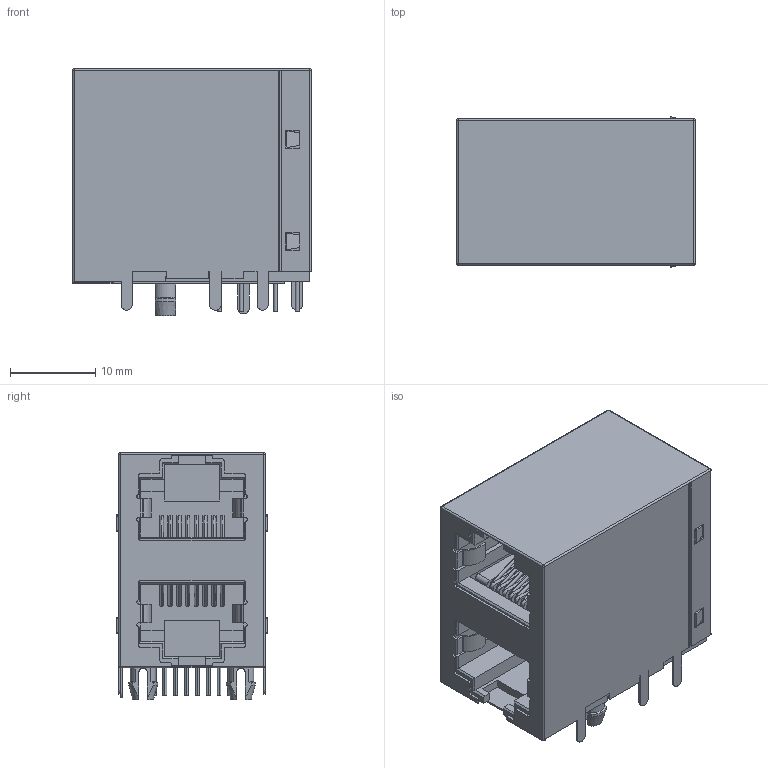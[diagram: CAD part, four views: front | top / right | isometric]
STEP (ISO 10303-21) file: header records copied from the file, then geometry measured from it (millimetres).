
FILE_DESCRIPTION((''),'2;1');
FILE_NAME('DGKYD59212188GWA1D0001','2022-11-07T15:45:10',('Administrator'),(''),'CREO PARAMETRIC BY PTC INC, 2019010','CREO PARAMETRIC BY PTC INC, 2019010','');
FILE_SCHEMA(('CONFIG_CONTROL_DESIGN'));
Length unit declared in the file: millimetre
Products named in the file (1): DGKYD59212188GWA1D0001
Bounding box: 28 x 17.68 x 29.01 mm (x, y, z)
Volume: 7090.8 mm3; surface area: 15420.3 mm2
Topology: 2 solids, 3 shells, 1498 faces, 4298 edges, 2743 vertices
Faces by surface type: plane 981, cylinder 398, torus 105, cone 8, sphere 6
Entity records: 49517 total; most frequent: CARTESIAN_POINT 10143, ORIENTED_EDGE 8596, DIRECTION 7871, EDGE_CURVE 4298, VECTOR 2993, LINE 2993, VERTEX_POINT 2743, AXIS2_PLACEMENT_3D 2439
